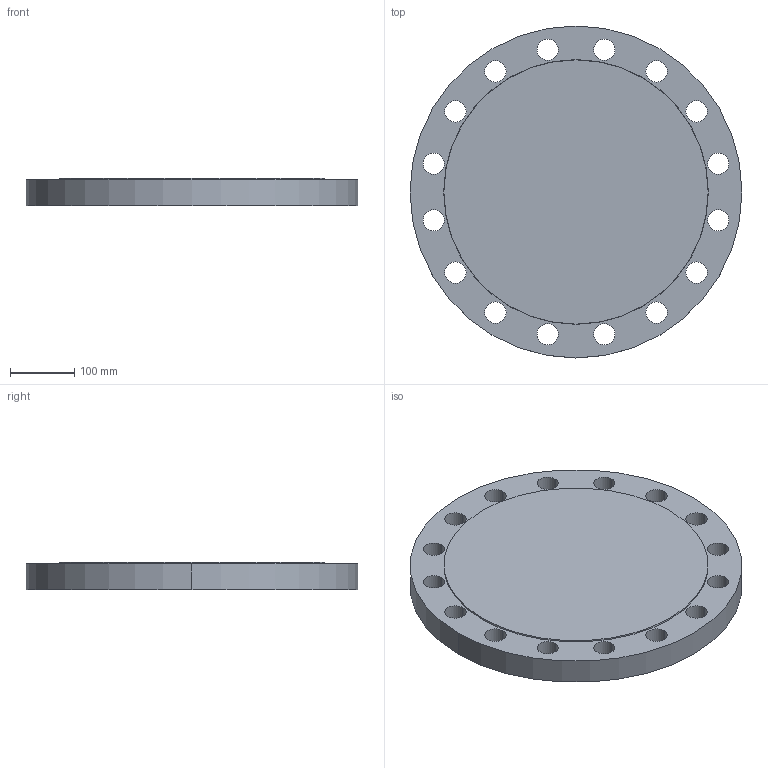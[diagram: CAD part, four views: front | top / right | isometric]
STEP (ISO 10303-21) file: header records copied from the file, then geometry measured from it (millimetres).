
FILE_DESCRIPTION (( 'STEP AP214' ), '1' );
FILE_NAME ('PN40 DN300 Type 05 - Type B Face.STEP', '2019-01-05T20:27:44', ( '' ), ( '' ), 'SwSTEP 2.0', 'SolidWorks 2019', '' );
FILE_SCHEMA (( 'AUTOMOTIVE_DESIGN' ));
Length unit declared in the file: millimetre
Products named in the file (1): PN40 DN300 Type 05 - Type B Face
Bounding box: 515 x 515 x 42 mm (x, y, z)
Volume: 8049403.4 mm3; surface area: 522475.6 mm2
Topology: 1 solids, 1 shells, 39 faces, 108 edges, 72 vertices
Faces by surface type: cylinder 34, plane 3, cone 2
Entity records: 1392 total; most frequent: DIRECTION 260, CARTESIAN_POINT 220, ORIENTED_EDGE 216, AXIS2_PLACEMENT_3D 112, EDGE_CURVE 108, CIRCLE 72, VERTEX_POINT 72, EDGE_LOOP 72
